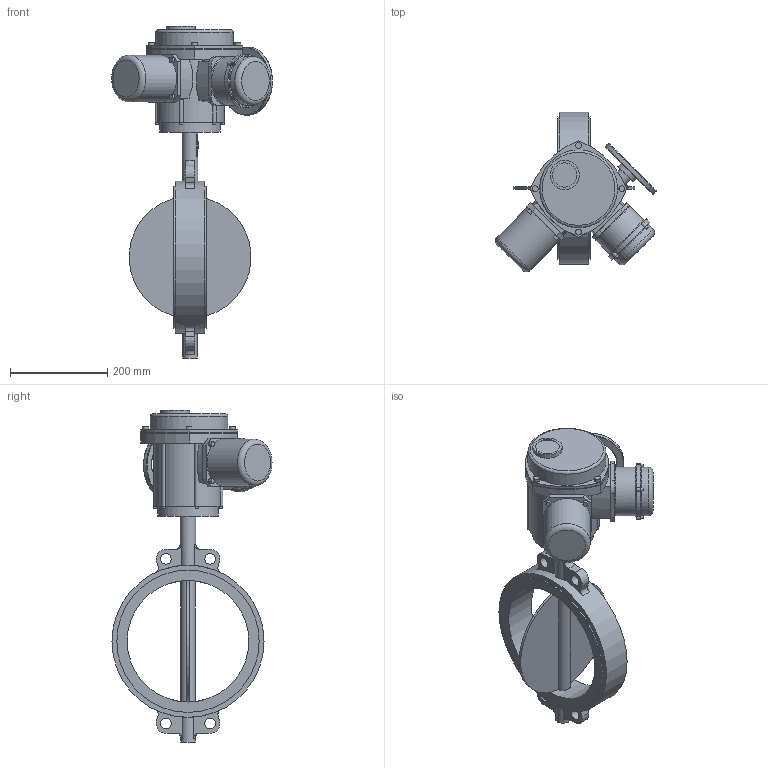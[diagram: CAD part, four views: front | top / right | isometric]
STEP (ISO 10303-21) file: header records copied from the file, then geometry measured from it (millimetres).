
FILE_DESCRIPTION(('STEP AP203'), '1');
FILE_NAME('青蜮铕 017W.Y_DN250_PN10_QT.Z 40', '', ('UNSPECIFIED'), ('UNSPECIFIED'), 'ASCON STEP Converter 1.6', 'ASCON Math Kernel', '');
FILE_SCHEMA(('CONFIG_CONTROL_DESIGN'));
Length unit declared in the file: millimetre
Bounding box: 330.59 x 328.81 x 682 mm (x, y, z)
Volume: 8062738.1 mm3; surface area: 639170.9 mm2
Topology: 1 solids, 1 shells, 306 faces, 725 edges, 453 vertices
Faces by surface type: cylinder 139, plane 106, torus 45, cone 8, bspline 8
Full cylindrical faces by diameter (mm): 6 x10, 8.376 x4, 10 x4, 12 x8, 12.386 x1, 22 x4, 30 x3, 32 x1, 45 x1, 50 x1, 60 x1, 96 x1, 100 x2, 125 x1, 140 x1, 160 x1, 250 x1, 292.4 x2, 312.4 x1
Entity records: 13695 total; most frequent: CARTESIAN_POINT 4237, DIRECTION 1560, ORIENTED_EDGE 1296, AXIS2_PLACEMENT_3D 661, EDGE_CURVE 648, VERTEX_POINT 448, EDGE_LOOP 430, CIRCLE 362
